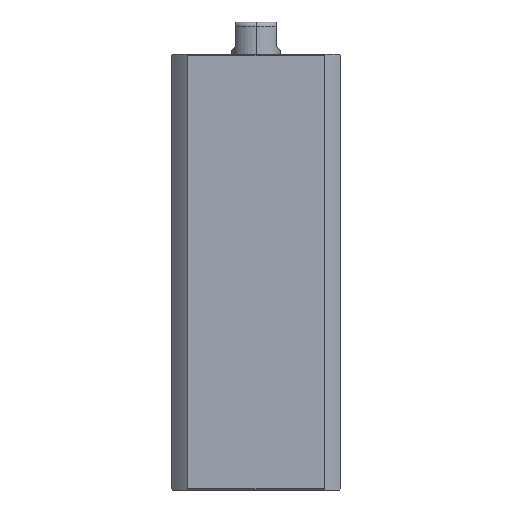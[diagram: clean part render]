
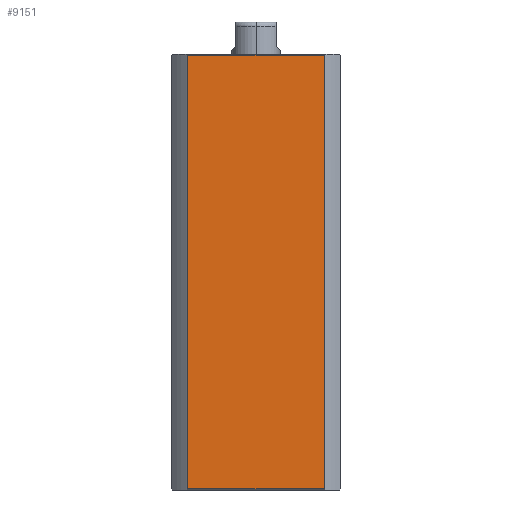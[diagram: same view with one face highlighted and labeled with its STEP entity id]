
A CAD part, left-side view. The second image highlights one B-rep face of the part: STEP entity #9151.
In plain terms, the highlighted planar face has unit normal (-1, 0, 0).
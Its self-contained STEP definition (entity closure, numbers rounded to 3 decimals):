
#77 = VERTEX_POINT ( 'NONE', #11924 ) ;
#490 = LINE ( 'NONE', #11962, #9894 ) ;
#1079 = CARTESIAN_POINT ( 'NONE',  ( -21., -16.971, -192. ) ) ;
#1445 = VERTEX_POINT ( 'NONE', #7249 ) ;
#1473 = PLANE ( 'NONE',  #7016 ) ;
#1514 = CARTESIAN_POINT ( 'NONE',  ( -21., 21., 108. ) ) ;
#2118 = LINE ( 'NONE', #1079, #6551 ) ;
#2257 = CARTESIAN_POINT ( 'NONE',  ( -21., 16.971, -192. ) ) ;
#2582 = EDGE_LOOP ( 'NONE', ( #2971, #4261, #8469, #4309 ) ) ;
#2971 = ORIENTED_EDGE ( 'NONE', *, *, #11157, .F. ) ;
#3560 = DIRECTION ( 'NONE',  ( 0., 1., 0. ) ) ;
#3888 = DIRECTION ( 'NONE',  ( 0., 0., -1. ) ) ;
#4261 = ORIENTED_EDGE ( 'NONE', *, *, #8362, .T. ) ;
#4309 = ORIENTED_EDGE ( 'NONE', *, *, #8363, .T. ) ;
#4353 = DIRECTION ( 'NONE',  ( 0., 1., 0. ) ) ;
#4937 = VECTOR ( 'NONE', #3560, 1000. ) ;
#5059 = LINE ( 'NONE', #2257, #8447 ) ;
#5204 = FACE_OUTER_BOUND ( 'NONE', #2582, .T. ) ;
#5220 = LINE ( 'NONE', #6377, #4937 ) ;
#6377 = CARTESIAN_POINT ( 'NONE',  ( -21., 21., 107.7 ) ) ;
#6551 = VECTOR ( 'NONE', #3888, 1000. ) ;
#6816 = VERTEX_POINT ( 'NONE', #8045 ) ;
#7016 = AXIS2_PLACEMENT_3D ( 'NONE', #1514, #9962, #4353 ) ;
#7249 = CARTESIAN_POINT ( 'NONE',  ( -21., 16.971, 0.3 ) ) ;
#7632 = CARTESIAN_POINT ( 'NONE',  ( -21., 16.971, 107.7 ) ) ;
#7818 = VERTEX_POINT ( 'NONE', #7632 ) ;
#8045 = CARTESIAN_POINT ( 'NONE',  ( -21., -16.971, 107.7 ) ) ;
#8362 = EDGE_CURVE ( 'NONE', #1445, #77, #490, .T. ) ;
#8363 = EDGE_CURVE ( 'NONE', #6816, #7818, #5220, .T. ) ;
#8447 = VECTOR ( 'NONE', #8828, 1000. ) ;
#8469 = ORIENTED_EDGE ( 'NONE', *, *, #10834, .F. ) ;
#8828 = DIRECTION ( 'NONE',  ( 0., 0., 1. ) ) ;
#9151 = ADVANCED_FACE ( 'NONE', ( #5204 ), #1473, .F. ) ;
#9894 = VECTOR ( 'NONE', #11014, 1000. ) ;
#9962 = DIRECTION ( 'NONE',  ( 1., 0., 0. ) ) ;
#10834 = EDGE_CURVE ( 'NONE', #6816, #77, #2118, .T. ) ;
#11014 = DIRECTION ( 'NONE',  ( 0., -1., 0. ) ) ;
#11157 = EDGE_CURVE ( 'NONE', #1445, #7818, #5059, .T. ) ;
#11924 = CARTESIAN_POINT ( 'NONE',  ( -21., -16.971, 0.3 ) ) ;
#11962 = CARTESIAN_POINT ( 'NONE',  ( -21., 21., 0.3 ) ) ;
